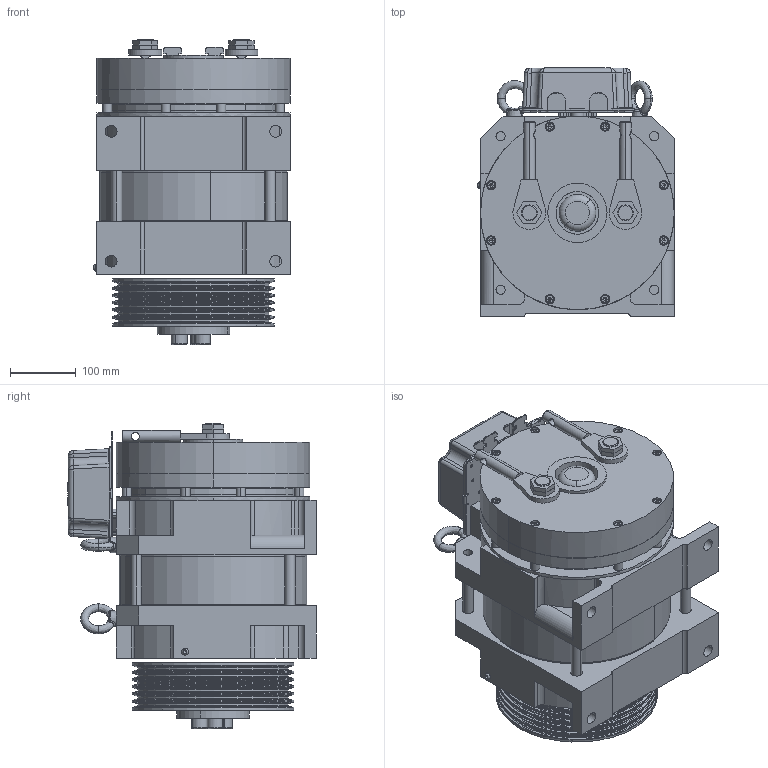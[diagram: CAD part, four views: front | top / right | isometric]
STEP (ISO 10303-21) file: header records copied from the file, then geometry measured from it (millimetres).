
FILE_DESCRIPTION (( 'STEP AP214' ), '1' );
FILE_NAME ('CSAG-E240. 630KG .STEP', '2024-05-14T06:05:25', ( '' ), ( '' ), 'SwSTEP 2.0', 'SolidWorks 2021', '' );
FILE_SCHEMA (( 'AUTOMOTIVE_DESIGN' ));
Length unit declared in the file: millimetre
Products named in the file (1): CSAG-E240. 630KG 
Bounding box: 298.3 x 378 x 464 mm (x, y, z)
Volume: 16934897.2 mm3; surface area: 2167356.8 mm2
Topology: 34 solids, 36 shells, 1687 faces, 4140 edges, 2579 vertices
Faces by surface type: plane 686, cylinder 654, torus 149, cone 138, bspline 58, sphere 2
Entity records: 78809 total; most frequent: CARTESIAN_POINT 19398, DIRECTION 8844, ORIENTED_EDGE 8168, EDGE_CURVE 4084, AXIS2_PLACEMENT_3D 3428, VERTEX_POINT 2579, EDGE_LOOP 1995, VECTOR 1988
